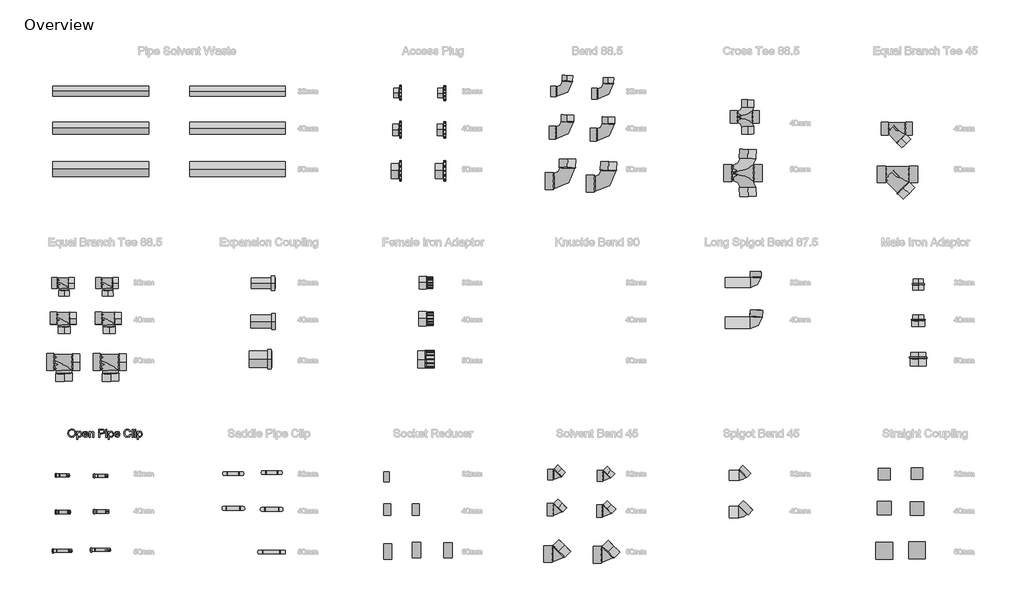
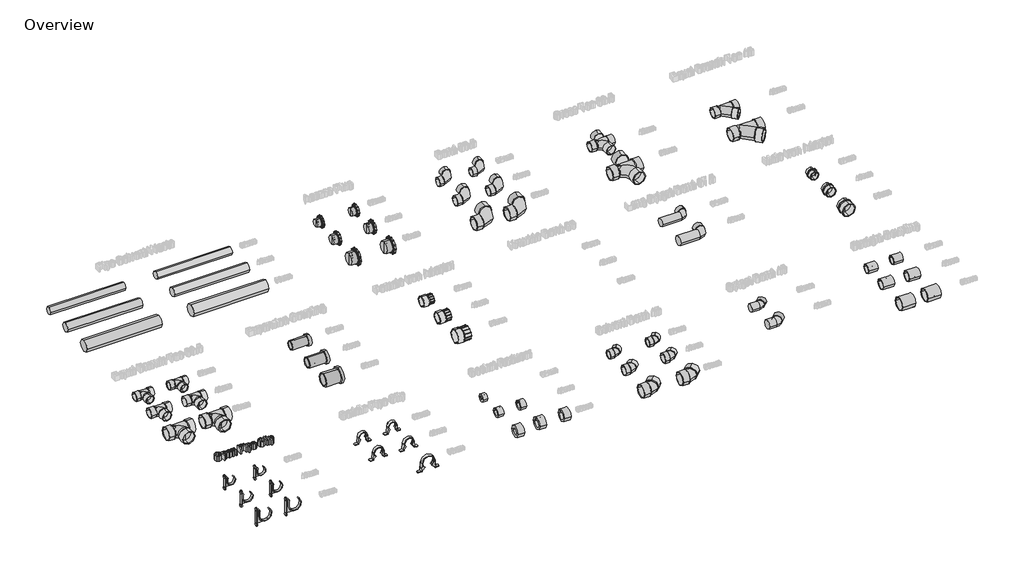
# One storey, part 1 of 10: 70 pipe fittings, 1 proxy.
"""IFC4 building model written with IfcOpenShell, lengths in millimetres."""

from ifc_helpers import new_model, si_unit, point, frame, frame_2d, origin, origin_with_axes, place, context, project, spatial, polyline, circle_curve, trimmed, segment, composite_curve, outline, extrude, transform, mapped, element, save
from components import kap1_32mm_black_3edfe047, kap2_40mm_black_465b1ba6, kap3_50mm_black_8042cce0, kb1_32mm_black_e9972e0a, kb12_32mm_black_8cb6b957, kb2_40mm_black_d1c11dab, kb22_40mm_black_890d581f, kb3_50mm_black_37affa3f, kb32_50mm_black_69a5e7c4, kba12_32mm_white_19b2c38b, kba22_40mm_white_08678ae4, kbs1_32mm_white_f2bac062, kbs2_40mm_white_d1bb09a6, kec1_32mm_white_43a6a038, kec2_40mm_white_910cb4ee, kec3_50mm_white_977d8cc5, kf1_32mm_black_6c7724f6, kf2_40mm_black_470da472, kf3_50mm_black_236c3547, kfa1_32mm_white_d1753785, kfa2_40mm_white_4137147a, kfa3_50mm_white_a62e5cf9, kma1_32mm_white_f1e2a98e, kma2_40mm_white_9f97f819, kma3_50mm_white_1b525f0e, kr175_32_21_5mm_white_198541a2, kr210_40_32mm_black_3720de73, kr310_50_32mm_white_3ceea3f4, kr320_50_40mm_black_520dc552, ksc1_32mm_black_cfbb3ff1, ksc2_40mm_black_a21aa28d, ksc3_50mm_black_f16c5d37, kt1_32mm_black_348191cf, kt2_40mm_black_f508cd0c, kt21_40mm_white_b5f2268c, kt3_50mm_black_4773b306, kt31_50mm_white_7048cb69, kxt21_40mm_white_e69484c4, kxt31_50mm_white_24e1eb4b, wc3_32mm_black_cb145518, wc4_40mm_black_1d234623, wc5_50mm_white_8bb5262e

model = new_model("IFC4")

# Units and contexts
model_context = context("Model", 3, world=origin())
ifc_project = project(units=[si_unit("LENGTHUNIT", "METRE", prefix="MILLI")], contexts=[model_context])

# Site, building, storey
site = spatial("IfcSite", under=ifc_project)
building = spatial("IfcBuilding", under=site)
storey = spatial("IfcBuildingStorey", under=building, Name="Overview", Elevation=0.0)

# Proxy
placement = place(None, origin())
element("IfcBuildingElementProxy", 1, Name="600mm Arial", ObjectType="600mm Arial", at=placement, inside=storey, context=model_context, shape_type="SweptSolid", body=[
    extrude(outline(polyline([(-3139.6077396, 3873.9511231), (-3135.6702396, 3885.4246808), (-3125.5091819, 3889.5713154), (-3118.1606242, 3887.6242), (-3113.1702396, 3882.1939115), (-3111.4538934, 3874.2900654), (-3113.2603838, 3866.2780462), (-3118.3805761, 3860.9270846), (-3125.5308165, 3859.1097769), (-3132.9587011, 3861.1181904), (-3137.9202396, 3866.5989596), (-3139.6077396, 3873.9511231)]), holes=[polyline([(-3135.9154319, 3873.9150654), (-3132.9623069, 3865.7732385), (-3125.5524511, 3862.8020846), (-3118.0776915, 3865.8020846), (-3115.1462011, 3874.3189115), (-3116.4010088, 3880.4126615), (-3120.0680761, 3884.4475173), (-3125.4875472, 3885.8790077), (-3132.8361049, 3883.1205942), (-3135.9154319, 3873.9150654)])]), origin_with_axes(), (0.0, 0.0, 1.0), 25.0),
    extrude(outline(polyline([(-3106.8385088, 3851.2636231), (-3106.8385088, 3881.2636231), (-3103.1462011, 3881.2636231), (-3103.1462011, 3877.6434308), (-3100.5933165, 3880.7047288), (-3097.1462011, 3881.7251615), (-3092.4659126, 3880.2972769), (-3089.4082203, 3876.2732385), (-3088.3769703, 3870.5833346), (-3089.5416338, 3864.6013635), (-3092.9238453, 3860.5268442), (-3097.5933165, 3859.1097769), (-3100.8060569, 3860.0580942), (-3103.1462011, 3862.4559308), (-3103.1462011, 3851.2636231), (-3106.8385088, 3851.2636231)]), holes=[polyline([(-3103.1462011, 3870.2443923), (-3101.5488453, 3864.6193923), (-3097.6726434, 3862.8020846), (-3093.7171146, 3864.6842962), (-3092.069278, 3870.5184308), (-3093.6774511, 3876.1578538), (-3097.5212011, 3878.0328538), (-3101.4406722, 3876.0388635), (-3103.1462011, 3870.2443923)])]), origin_with_axes(), (0.0, 0.0, 1.0), 25.0),
    extrude(outline(polyline([(-3069.0356242, 3866.0328538), (-3065.4154319, 3865.5713154), (-3068.8012492, 3860.8044885), (-3075.1077396, 3859.1097769), (-3082.7736049, 3862.0340558), (-3085.6077396, 3870.2371808), (-3082.7447588, 3878.7107385), (-3075.3168742, 3881.7251615), (-3068.1017299, 3878.71795), (-3065.3000472, 3870.2588154), (-3081.9154319, 3869.2636231), (-3079.7916338, 3864.46795), (-3075.0356242, 3862.8020846), (-3071.4154319, 3863.5737192), (-3069.0356242, 3866.0328538)]), holes=[polyline([(-3081.9154319, 3872.9559308), (-3068.9923549, 3872.9559308), (-3070.4707203, 3876.3020846), (-3075.3312972, 3878.0328538), (-3079.8781722, 3876.6518442), (-3081.9154319, 3872.9559308)])]), origin_with_axes(), (0.0, 0.0, 1.0), 25.0),
    extrude(outline(polyline([(-3061.6077396, 3859.5713154), (-3061.6077396, 3881.2636231), (-3057.9154319, 3881.2636231), (-3057.9154319, 3878.2347769), (-3051.2375472, 3881.7251615), (-3047.7507684, 3881.0220365), (-3045.3709607, 3879.1758827), (-3044.2639896, 3876.4607385), (-3044.069278, 3872.8910269), (-3044.069278, 3859.5713154), (-3047.7615857, 3859.5713154), (-3047.7615857, 3872.3934308), (-3048.1870665, 3875.6602577), (-3049.6906722, 3877.3874212), (-3052.225528, 3878.0328538), (-3056.2315376, 3876.5833346), (-3057.9154319, 3871.0809308), (-3057.9154319, 3859.5713154), (-3061.6077396, 3859.5713154)])), origin_with_axes(), (0.0, 0.0, 1.0), 25.0),
    extrude(outline(polyline([(-3026.9923549, 3859.5713154), (-3026.9923549, 3889.1097769), (-3016.0452396, 3889.1097769), (-3011.631778, 3888.8285269), (-3008.0440376, 3887.4475173), (-3005.7183165, 3884.5917481), (-3004.8385088, 3880.5641038), (-3007.2147107, 3874.1818923), (-3015.7928357, 3871.5713154), (-3023.3000472, 3871.5713154), (-3023.3000472, 3859.5713154), (-3026.9923549, 3859.5713154)]), holes=[polyline([(-3023.3000472, 3875.2636231), (-3015.5764896, 3875.2636231), (-3010.1389896, 3876.6193923), (-3008.5308165, 3880.4342962), (-3009.4791338, 3883.4919885), (-3011.9707203, 3885.1650654), (-3015.663028, 3885.4174692), (-3023.3000472, 3885.4174692), (-3023.3000472, 3875.2636231)])]), origin_with_axes(), (0.0, 0.0, 1.0), 25.0),
    extrude(outline(polyline([(-3000.2231242, 3885.4174692), (-3000.2231242, 3889.1097769), (-2996.5308165, 3889.1097769), (-2996.5308165, 3885.4174692), (-3000.2231242, 3885.4174692)])), origin_with_axes(), (0.0, 0.0, 1.0), 25.0),
    extrude(outline(polyline([(-3000.2231242, 3859.5713154), (-3000.2231242, 3881.2636231), (-2996.5308165, 3881.2636231), (-2996.5308165, 3859.5713154), (-3000.2231242, 3859.5713154)])), origin_with_axes(), (0.0, 0.0, 1.0), 25.0),
    extrude(outline(polyline([(-2990.9923549, 3851.2636231), (-2990.9923549, 3881.2636231), (-2987.3000472, 3881.2636231), (-2987.3000472, 3877.6434308), (-2984.7471626, 3880.7047288), (-2981.3000472, 3881.7251615), (-2976.6197588, 3880.2972769), (-2973.5620665, 3876.2732385), (-2972.5308165, 3870.5833346), (-2973.6954799, 3864.6013635), (-2977.0776915, 3860.5268442), (-2981.7471626, 3859.1097769), (-2984.959903, 3860.0580942), (-2987.3000472, 3862.4559308), (-2987.3000472, 3851.2636231), (-2990.9923549, 3851.2636231)]), holes=[polyline([(-2987.3000472, 3870.2443923), (-2985.7026915, 3864.6193923), (-2981.8264896, 3862.8020846), (-2977.8709607, 3864.6842962), (-2976.2231242, 3870.5184308), (-2977.8312972, 3876.1578538), (-2981.6750472, 3878.0328538), (-2985.5945184, 3876.0388635), (-2987.3000472, 3870.2443923)])]), origin_with_axes(), (0.0, 0.0, 1.0), 25.0),
    extrude(outline(polyline([(-2953.1894703, 3866.0328538), (-2949.569278, 3865.5713154), (-2952.9550953, 3860.8044885), (-2959.2615857, 3859.1097769), (-2966.9274511, 3862.0340558), (-2969.7615857, 3870.2371808), (-2966.8986049, 3878.7107385), (-2959.4707203, 3881.7251615), (-2952.2555761, 3878.71795), (-2949.4538934, 3870.2588154), (-2966.069278, 3869.2636231), (-2963.9454799, 3864.46795), (-2959.1894703, 3862.8020846), (-2955.569278, 3863.5737192), (-2953.1894703, 3866.0328538)]), holes=[polyline([(-2966.069278, 3872.9559308), (-2953.1462011, 3872.9559308), (-2954.6245665, 3876.3020846), (-2959.4851434, 3878.0328538), (-2964.0320184, 3876.6518442), (-2966.069278, 3872.9559308)])]), origin_with_axes(), (0.0, 0.0, 1.0), 25.0),
    extrude(outline(polyline([(-2912.9923549, 3870.0713154), (-2909.3000472, 3869.1193923), (-2913.6774511, 3861.6734788), (-2921.4082203, 3859.1097769), (-2929.0921146, 3861.0496808), (-2933.5993261, 3866.6674692), (-2935.1462011, 3874.5641038), (-2933.397403, 3882.5905462), (-2928.4250472, 3887.7936712), (-2921.3288934, 3889.5713154), (-2913.9334607, 3887.2708346), (-2909.7615857, 3880.7948731), (-2913.4538934, 3879.9150654), (-2916.4827396, 3884.4547288), (-2921.4731242, 3885.8790077), (-2927.2495665, 3884.2996808), (-2930.5127876, 3880.0592962), (-2931.4538934, 3874.5713154), (-2930.3397107, 3868.2107385), (-2926.8709607, 3864.1470365), (-2921.7760088, 3862.8020846), (-2916.1257684, 3864.6338154), (-2912.9923549, 3870.0713154)])), origin_with_axes(), (0.0, 0.0, 1.0), 25.0),
    extrude(outline(polyline([(-2904.6846626, 3859.5713154), (-2904.6846626, 3889.1097769), (-2900.9923549, 3889.1097769), (-2900.9923549, 3859.5713154), (-2904.6846626, 3859.5713154)])), origin_with_axes(), (0.0, 0.0, 1.0), 25.0),
    extrude(outline(polyline([(-2895.4538934, 3859.5713154), (-2895.4538934, 3881.2636231), (-2891.7615857, 3881.2636231), (-2891.7615857, 3859.5713154), (-2895.4538934, 3859.5713154)])), origin_with_axes(), (0.0, 0.0, 1.0), 25.0),
    extrude(outline(polyline([(-2895.4538934, 3885.4174692), (-2895.4538934, 3889.1097769), (-2891.7615857, 3889.1097769), (-2891.7615857, 3885.4174692), (-2895.4538934, 3885.4174692)])), origin_with_axes(), (0.0, 0.0, 1.0), 25.0),
    extrude(outline(polyline([(-2886.2231242, 3851.2636231), (-2886.2231242, 3881.2636231), (-2882.5308165, 3881.2636231), (-2882.5308165, 3877.6434308), (-2879.9779319, 3880.7047288), (-2876.5308165, 3881.7251615), (-2871.850528, 3880.2972769), (-2868.7928357, 3876.2732385), (-2867.7615857, 3870.5833346), (-2868.9262492, 3864.6013635), (-2872.3084607, 3860.5268442), (-2876.9779319, 3859.1097769), (-2880.1906722, 3860.0580942), (-2882.5308165, 3862.4559308), (-2882.5308165, 3851.2636231), (-2886.2231242, 3851.2636231)]), holes=[polyline([(-2882.5308165, 3870.2443923), (-2880.9334607, 3864.6193923), (-2877.0572588, 3862.8020846), (-2873.1017299, 3864.6842962), (-2871.4538934, 3870.5184308), (-2873.0620665, 3876.1578538), (-2876.9058165, 3878.0328538), (-2880.8252876, 3876.0388635), (-2882.5308165, 3870.2443923)])]), origin_with_axes(), (0.0, 0.0, 1.0), 25.0),
])

# Pipe fittings
element("IfcPipeFitting", 2, ObjectType="Marley - PVC-c solvent waste - Black", at=placement, inside=storey, context=model_context, shape_type="SweptSolid", body=[
    extrude(outline(composite_curve([segment(trimmed(circle_curve(frame_2d((5126.2344761, 0.0)), 18.0), [point((5108.2344761, 0.0))], [point((5126.2344761, 18.0))], False, "CARTESIAN"), True, "CONTINUOUS"), segment(trimmed(circle_curve(frame_2d((5126.2344761, 0.0)), 18.0), [point((5126.2344761, 18.0))], [point((5144.2344761, 0.0))], False, "CARTESIAN"), True, "CONTINUOUS"), segment(trimmed(circle_curve(frame_2d((5126.2344761, 0.0)), 18.0), [point((5144.2344761, 0.0))], [point((5126.2344761, -18.0))], False, "CARTESIAN"), True, "CONTINUOUS"), segment(trimmed(circle_curve(frame_2d((5126.2344761, 0.0)), 18.0), [point((5126.2344761, -18.0))], [point((5108.2344761, 0.0))], False, "CARTESIAN"), True, "CONTINUOUS")], self_intersect=False)), frame((-3194.3273659, 0.0, 0.0), z_axis=(1.0, 0.0, 0.0), x_axis=(0.0, 1.0, 0.0)), (0.0, 0.0, 1.0), 350.0),
])
element("IfcPipeFitting", 3, ObjectType="Marley - PVC-c solvent waste - White", at=placement, inside=storey, context=model_context, shape_type="SweptSolid", body=[
    extrude(outline(composite_curve([segment(trimmed(circle_curve(frame_2d((5126.2344761, 0.0)), 18.0), [point((5144.2344761, 0.0))], [point((5126.2344761, -18.0))], False, "CARTESIAN"), True, "CONTINUOUS"), segment(trimmed(circle_curve(frame_2d((5126.2344761, 0.0)), 18.0), [point((5126.2344761, -18.0))], [point((5108.2344761, 0.0))], False, "CARTESIAN"), True, "CONTINUOUS"), segment(trimmed(circle_curve(frame_2d((5126.2344761, 0.0)), 18.0), [point((5108.2344761, 0.0))], [point((5126.2344761, 18.0))], False, "CARTESIAN"), True, "CONTINUOUS"), segment(trimmed(circle_curve(frame_2d((5126.2344761, 0.0)), 18.0), [point((5126.2344761, 18.0))], [point((5144.2344761, 0.0))], False, "CARTESIAN"), True, "CONTINUOUS")], self_intersect=False)), frame((-2694.3273659, 0.0, 0.0), z_axis=(1.0, 0.0, 0.0), x_axis=(0.0, 1.0, 0.0)), (0.0, 0.0, 1.0), 350.0),
])
element("IfcPipeFitting", 4, ObjectType="Marley - PVC-c solvent waste - Black", at=placement, inside=storey, context=model_context, shape_type="SweptSolid", body=[
    extrude(outline(composite_curve([segment(trimmed(circle_curve(frame_2d((4990.5685355, 0.0)), 21.5), [point((4969.0685355, 0.0))], [point((4990.5685355, 21.5))], False, "CARTESIAN"), True, "CONTINUOUS"), segment(trimmed(circle_curve(frame_2d((4990.5685355, 0.0)), 21.5), [point((4990.5685355, 21.5))], [point((5012.0685355, 0.0))], False, "CARTESIAN"), True, "CONTINUOUS"), segment(trimmed(circle_curve(frame_2d((4990.5685355, 0.0)), 21.5), [point((5012.0685355, 0.0))], [point((4990.5685355, -21.5))], False, "CARTESIAN"), True, "CONTINUOUS"), segment(trimmed(circle_curve(frame_2d((4990.5685355, 0.0)), 21.5), [point((4990.5685355, -21.5))], [point((4969.0685355, 0.0))], False, "CARTESIAN"), True, "CONTINUOUS")], self_intersect=False)), frame((-3194.3273659, 0.0, 0.0), z_axis=(1.0, 0.0, 0.0), x_axis=(0.0, 1.0, 0.0)), (0.0, 0.0, 1.0), 350.0),
])
element("IfcPipeFitting", 5, ObjectType="Marley - PVC-c solvent waste - White", at=placement, inside=storey, context=model_context, shape_type="SweptSolid", body=[
    extrude(outline(composite_curve([segment(trimmed(circle_curve(frame_2d((4990.5685355, 0.0)), 21.5), [point((5012.0685355, 0.0))], [point((4990.5685355, -21.5))], False, "CARTESIAN"), True, "CONTINUOUS"), segment(trimmed(circle_curve(frame_2d((4990.5685355, 0.0)), 21.5), [point((4990.5685355, -21.5))], [point((4969.0685355, 0.0))], False, "CARTESIAN"), True, "CONTINUOUS"), segment(trimmed(circle_curve(frame_2d((4990.5685355, 0.0)), 21.5), [point((4969.0685355, 0.0))], [point((4990.5685355, 21.5))], False, "CARTESIAN"), True, "CONTINUOUS"), segment(trimmed(circle_curve(frame_2d((4990.5685355, 0.0)), 21.5), [point((4990.5685355, 21.5))], [point((5012.0685355, 0.0))], False, "CARTESIAN"), True, "CONTINUOUS")], self_intersect=False)), frame((-2694.3273659, 0.0, 0.0), z_axis=(1.0, 0.0, 0.0), x_axis=(0.0, 1.0, 0.0)), (0.0, 0.0, 1.0), 350.0),
])
element("IfcPipeFitting", 6, ObjectType="Marley - PVC-c solvent waste - Black", at=placement, inside=storey, context=model_context, shape_type="SweptSolid", body=[
    extrude(outline(composite_curve([segment(trimmed(circle_curve(frame_2d((4840.9138269, 0.0)), 28.0), [point((4812.9138269, 0.0))], [point((4840.9138269, 28.0))], False, "CARTESIAN"), True, "CONTINUOUS"), segment(trimmed(circle_curve(frame_2d((4840.9138269, 0.0)), 28.0), [point((4840.9138269, 28.0))], [point((4868.9138269, 0.0))], False, "CARTESIAN"), True, "CONTINUOUS"), segment(trimmed(circle_curve(frame_2d((4840.9138269, 0.0)), 28.0), [point((4868.9138269, 0.0))], [point((4840.9138269, -28.0))], False, "CARTESIAN"), True, "CONTINUOUS"), segment(trimmed(circle_curve(frame_2d((4840.9138269, 0.0)), 28.0), [point((4840.9138269, -28.0))], [point((4812.9138269, 0.0))], False, "CARTESIAN"), True, "CONTINUOUS")], self_intersect=False)), frame((-3194.3273659, 0.0, 0.0), z_axis=(1.0, 0.0, 0.0), x_axis=(0.0, 1.0, 0.0)), (0.0, 0.0, 1.0), 350.0),
])
element("IfcPipeFitting", 7, ObjectType="Marley - PVC-c solvent waste - White", at=placement, inside=storey, context=model_context, shape_type="SweptSolid", body=[
    extrude(outline(composite_curve([segment(trimmed(circle_curve(frame_2d((4840.9138269, 0.0)), 28.0), [point((4868.9138269, 0.0))], [point((4840.9138269, -28.0))], False, "CARTESIAN"), True, "CONTINUOUS"), segment(trimmed(circle_curve(frame_2d((4840.9138269, 0.0)), 28.0), [point((4840.9138269, -28.0))], [point((4812.9138269, 0.0))], False, "CARTESIAN"), True, "CONTINUOUS"), segment(trimmed(circle_curve(frame_2d((4840.9138269, 0.0)), 28.0), [point((4812.9138269, 0.0))], [point((4840.9138269, 28.0))], False, "CARTESIAN"), True, "CONTINUOUS"), segment(trimmed(circle_curve(frame_2d((4840.9138269, 0.0)), 28.0), [point((4840.9138269, 28.0))], [point((4868.9138269, 0.0))], False, "CARTESIAN"), True, "CONTINUOUS")], self_intersect=False)), frame((-2694.3273659, 0.0, 0.0), z_axis=(1.0, 0.0, 0.0), x_axis=(0.0, 1.0, 0.0)), (0.0, 0.0, 1.0), 350.0),
])
kap1_32mm_black_shape = kap1_32mm_black_3edfe047(model_context)
element("IfcPipeFitting", 8, ObjectType="MarleyPlumbingAndDrainage_PipeFitting_AccessPlug : KAP1 - 32mm - Black", at=placement, inside=storey, context=model_context, shape_type="MappedRepresentation", body=[
    mapped(kap1_32mm_black_shape, transform((-1595.8917114, 5120.6296516, 0.0), x_axis=(1.0, 0.0, 0.0), y_axis=(0.0, 1.0, 0.0), z_axis=(0.0, 0.0, 1.0))),
])
element("IfcPipeFitting", 9, ObjectType="MarleyPlumbingAndDrainage_PipeFitting_AccessPlug : KAP1 - 32mm - White", at=placement, inside=storey, context=model_context, shape_type="MappedRepresentation", body=[
    mapped(kap1_32mm_black_shape, transform((-1433.6415484, 5119.5713154, 0.0), x_axis=(1.0, 0.0, 0.0), y_axis=(0.0, 1.0, 0.0), z_axis=(0.0, 0.0, 1.0))),
])
kap2_40mm_black_shape = kap2_40mm_black_465b1ba6(model_context)
element("IfcPipeFitting", 10, ObjectType="MarleyPlumbingAndDrainage_PipeFitting_AccessPlug : KAP2 - 40mm - Black", at=placement, inside=storey, context=model_context, shape_type="MappedRepresentation", body=[
    mapped(kap2_40mm_black_shape, transform((-1595.8917114, 4985.6296516, 0.0), x_axis=(1.0, 0.0, 0.0), y_axis=(0.0, 1.0, 0.0), z_axis=(0.0, 0.0, 1.0))),
])
element("IfcPipeFitting", 11, ObjectType="MarleyPlumbingAndDrainage_PipeFitting_AccessPlug : KAP2 - 40mm - White", at=placement, inside=storey, context=model_context, shape_type="MappedRepresentation", body=[
    mapped(kap2_40mm_black_shape, transform((-1433.6415484, 4984.5713154, 0.0), x_axis=(1.0, 0.0, 0.0), y_axis=(0.0, 1.0, 0.0), z_axis=(0.0, 0.0, 1.0))),
])
kap3_50mm_black_shape = kap3_50mm_black_8042cce0(model_context)
element("IfcPipeFitting", 12, ObjectType="MarleyPlumbingAndDrainage_PipeFitting_AccessPlug : KAP3 - 50mm - Black", at=placement, inside=storey, context=model_context, shape_type="MappedRepresentation", body=[
    mapped(kap3_50mm_black_shape, transform((-1595.8917114, 4834.5713154, 0.0), x_axis=(1.0, 0.0, 0.0), y_axis=(0.0, 1.0, 0.0), z_axis=(0.0, 0.0, 1.0))),
])
element("IfcPipeFitting", 13, ObjectType="MarleyPlumbingAndDrainage_PipeFitting_AccessPlug : KAP3 - 50mm - White", at=placement, inside=storey, context=model_context, shape_type="MappedRepresentation", body=[
    mapped(kap3_50mm_black_shape, transform((-1433.6415484, 4834.5713154, 0.0), x_axis=(1.0, 0.0, 0.0), y_axis=(0.0, 1.0, 0.0), z_axis=(0.0, 0.0, 1.0))),
])
kb1_32mm_black_shape = kb1_32mm_black_e9972e0a(model_context)
element("IfcPipeFitting", 14, ObjectType="MarleyPlumbingAndDrainage_PipeFitting_Bend88.5 : KB1 - 32mm - Black", at=placement, inside=storey, context=model_context, shape_type="MappedRepresentation", body=[
    mapped(kb1_32mm_black_shape, transform((-1299.5605779, 5125.0949754, 0.0), x_axis=(1.0, 0.0, 0.0), y_axis=(0.0, 1.0, 0.0), z_axis=(0.0, 0.0, 1.0))),
])
element("IfcPipeFitting", 15, ObjectType="MarleyPlumbingAndDrainage_PipeFitting_Bend88.5 : KB1 - 32mm - White", at=placement, inside=storey, context=model_context, shape_type="MappedRepresentation", body=[
    mapped(kb1_32mm_black_shape, transform((-1149.5605779, 5117.04699, 0.0), x_axis=(1.0, 0.0, 0.0), y_axis=(0.0, 1.0, 0.0), z_axis=(0.0, 0.0, 1.0))),
])
kb12_32mm_black_shape = kb12_32mm_black_8cb6b957(model_context)
element("IfcPipeFitting", 16, ObjectType="MarleyPlumbingAndDrainage_PipeFitting_SolventBend45 : KB12 - 32mm - Black", at=placement, inside=storey, context=model_context, shape_type="MappedRepresentation", body=[
    mapped(kb12_32mm_black_shape, transform((-1339.5605779, 3722.7151872, 0.0), x_axis=(1.0, 0.0, 0.0), y_axis=(0.0, 1.0, 0.0), z_axis=(0.0, 0.0, 1.0))),
])
element("IfcPipeFitting", 17, ObjectType="MarleyPlumbingAndDrainage_PipeFitting_SolventBend45 : KB12 - 32mm - White", at=placement, inside=storey, context=model_context, shape_type="MappedRepresentation", body=[
    mapped(kb12_32mm_black_shape, transform((-1159.5605779, 3717.791393, 0.0), x_axis=(1.0, 0.0, 0.0), y_axis=(0.0, 1.0, 0.0), z_axis=(0.0, 0.0, 1.0))),
])
kb2_40mm_black_shape = kb2_40mm_black_d1c11dab(model_context)
element("IfcPipeFitting", 18, ObjectType="MarleyPlumbingAndDrainage_PipeFitting_Bend88.5 : KB2 - 40mm - Black", at=placement, inside=storey, context=model_context, shape_type="MappedRepresentation", body=[
    mapped(kb2_40mm_black_shape, transform((-1299.5605779, 4974.3934441, 0.0), x_axis=(1.0, 0.0, 0.0), y_axis=(0.0, 1.0, 0.0), z_axis=(0.0, 0.0, 1.0))),
])
element("IfcPipeFitting", 19, ObjectType="MarleyPlumbingAndDrainage_PipeFitting_Bend88.5 : KB2 - 40mm - White", at=placement, inside=storey, context=model_context, shape_type="MappedRepresentation", body=[
    mapped(kb2_40mm_black_shape, transform((-1149.5605779, 4967.0494563, 0.0), x_axis=(1.0, 0.0, 0.0), y_axis=(0.0, 1.0, 0.0), z_axis=(0.0, 0.0, 1.0))),
])
kb22_40mm_black_shape = kb22_40mm_black_890d581f(model_context)
element("IfcPipeFitting", 20, ObjectType="MarleyPlumbingAndDrainage_PipeFitting_SolventBend45 : KB22 - 40mm - Black", at=placement, inside=storey, context=model_context, shape_type="MappedRepresentation", body=[
    mapped(kb22_40mm_black_shape, transform((-1339.5605779, 3594.5822287, 0.0), x_axis=(1.0, 0.0, 0.0), y_axis=(0.0, 1.0, 0.0), z_axis=(0.0, 0.0, 1.0))),
])
element("IfcPipeFitting", 21, ObjectType="MarleyPlumbingAndDrainage_PipeFitting_SolventBend45 : KB22 - 40mm - White", at=placement, inside=storey, context=model_context, shape_type="MappedRepresentation", body=[
    mapped(kb22_40mm_black_shape, transform((-1159.5605779, 3589.5441258, 0.0), x_axis=(1.0, 0.0, 0.0), y_axis=(0.0, 1.0, 0.0), z_axis=(0.0, 0.0, 1.0))),
])
kb3_50mm_black_shape = kb3_50mm_black_37affa3f(model_context)
element("IfcPipeFitting", 22, ObjectType="MarleyPlumbingAndDrainage_PipeFitting_Bend88.5 : KB3 - 50mm - Black", at=placement, inside=storey, context=model_context, shape_type="MappedRepresentation", body=[
    mapped(kb3_50mm_black_shape, transform((-1299.5605779, 4797.6176959, 0.0), x_axis=(1.0, 0.0, 0.0), y_axis=(0.0, 1.0, 0.0), z_axis=(0.0, 0.0, 1.0))),
])
element("IfcPipeFitting", 23, ObjectType="MarleyPlumbingAndDrainage_PipeFitting_Bend88.5 : KB3 - 50mm - White", at=placement, inside=storey, context=model_context, shape_type="MappedRepresentation", body=[
    mapped(kb3_50mm_black_shape, transform((-1149.5605779, 4787.8257121, 0.0), x_axis=(1.0, 0.0, 0.0), y_axis=(0.0, 1.0, 0.0), z_axis=(0.0, 0.0, 1.0))),
])
kb32_50mm_black_shape = kb32_50mm_black_69a5e7c4(model_context)
element("IfcPipeFitting", 24, ObjectType="MarleyPlumbingAndDrainage_PipeFitting_SolventBend45 : KB32 - 50mm - Black", at=placement, inside=storey, context=model_context, shape_type="MappedRepresentation", body=[
    mapped(kb32_50mm_black_shape, transform((-1339.5605779, 3432.0208134, 0.0), x_axis=(1.0, 0.0, 0.0), y_axis=(0.0, 1.0, 0.0), z_axis=(0.0, 0.0, 1.0))),
])
element("IfcPipeFitting", 25, ObjectType="MarleyPlumbingAndDrainage_PipeFitting_SolventBend45 : KB32 - 50mm - White", at=placement, inside=storey, context=model_context, shape_type="MappedRepresentation", body=[
    mapped(kb32_50mm_black_shape, transform((-1159.5605779, 3429.5589163, 0.0), x_axis=(1.0, 0.0, 0.0), y_axis=(0.0, 1.0, 0.0), z_axis=(0.0, 0.0, 1.0))),
])
kba12_32mm_white_shape = kba12_32mm_white_19b2c38b(model_context)
element("IfcPipeFitting", 26, ObjectType="MarleyPlumbingAndDrainage_PipeFitting_SpigotBend45 : KBA12 - 32mm - White", at=placement, inside=storey, context=model_context, shape_type="MappedRepresentation", body=[
    mapped(kba12_32mm_white_shape, transform((-687.7655733, 3710.1013723, 0.0), x_axis=(-0.7071067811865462, -0.7071067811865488, 0.0), y_axis=(0.7071067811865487, -0.7071067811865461, 0.0), z_axis=(0.0, 0.0, 0.9999999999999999))),
])
kba22_40mm_white_shape = kba22_40mm_white_08678ae4(model_context)
element("IfcPipeFitting", 27, ObjectType="MarleyPlumbingAndDrainage_PipeFitting_SpigotBend45 : KBA22 - 40mm - White", at=placement, inside=storey, context=model_context, shape_type="MappedRepresentation", body=[
    mapped(kba22_40mm_white_shape, transform((-686.8613177, 3575.3996996, 0.0), x_axis=(-0.7071067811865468, -0.7071067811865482, 0.0), y_axis=(0.7071067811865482, -0.7071067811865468, 0.0), z_axis=(0.0, 0.0, 1.0))),
])
kbs1_32mm_white_shape = kbs1_32mm_white_f2bac062(model_context)
element("IfcPipeFitting", 28, ObjectType="MarleyPlumbingAndDrainage_PipeFitting_LongSpigotBend87.5 : KBS1 - 32mm - White", at=placement, inside=storey, context=model_context, shape_type="MappedRepresentation", body=[
    mapped(kbs1_32mm_white_shape, transform((-625.9209273, 4411.6752386, 0.0), x_axis=(-0.04361938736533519, -0.999048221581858, 0.0), y_axis=(0.999048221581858, -0.04361938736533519, 0.0), z_axis=(0.0, 0.0, 1.0))),
])
kbs2_40mm_white_shape = kbs2_40mm_white_d1bb09a6(model_context)
element("IfcPipeFitting", 29, ObjectType="MarleyPlumbingAndDrainage_PipeFitting_LongSpigotBend87.5 : KBS2 - 40mm - White", at=placement, inside=storey, context=model_context, shape_type="MappedRepresentation", body=[
    mapped(kbs2_40mm_white_shape, transform((-623.9867335, 4263.9548834, 0.0), x_axis=(-0.04361938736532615, -0.9990482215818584, 0.0), y_axis=(0.9990482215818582, -0.04361938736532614, 0.0), z_axis=(0.0, 0.0, 0.9999999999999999))),
])
kec1_32mm_white_shape = kec1_32mm_white_43a6a038(model_context)
element("IfcPipeFitting", 30, ObjectType="MarleyPlumbingAndDrainage_PipeFitting_ExpansionCoupling : KEC1 - 32mm - White", at=placement, inside=storey, context=model_context, shape_type="MappedRepresentation", body=[
    mapped(kec1_32mm_white_shape, transform((-2429.5019841, 4423.5468285, 0.0), x_axis=(1.0, 0.0, 0.0), y_axis=(0.0, 1.0, 0.0), z_axis=(0.0, 0.0, 1.0))),
])
kec2_40mm_white_shape = kec2_40mm_white_910cb4ee(model_context)
element("IfcPipeFitting", 31, ObjectType="MarleyPlumbingAndDrainage_PipeFitting_ExpansionCoupling : KEC2 - 40mm - White", at=placement, inside=storey, context=model_context, shape_type="MappedRepresentation", body=[
    mapped(kec2_40mm_white_shape, transform((-2429.5019841, 4283.9307351, 0.0), x_axis=(1.0, 0.0, 0.0), y_axis=(0.0, 1.0, 0.0), z_axis=(0.0, 0.0, 1.0))),
])
kec3_50mm_white_shape = kec3_50mm_white_977d8cc5(model_context)
element("IfcPipeFitting", 32, ObjectType="MarleyPlumbingAndDrainage_PipeFitting_ExpansionCoupling : KEC3 - 50mm - White", at=placement, inside=storey, context=model_context, shape_type="MappedRepresentation", body=[
    mapped(kec3_50mm_white_shape, transform((-2429.5019841, 4146.1761896, 0.0), x_axis=(1.0, 0.0, 0.0), y_axis=(0.0, 1.0, 0.0), z_axis=(0.0, 0.0, 1.0))),
])
kf1_32mm_black_shape = kf1_32mm_black_6c7724f6(model_context)
element("IfcPipeFitting", 33, ObjectType="MarleyPlumbingAndDrainage_PipeFitting_OpenPipeClip : KF1 - 32mm - Black", at=placement, inside=storey, context=model_context, shape_type="MappedRepresentation", body=[
    mapped(kf1_32mm_black_shape, transform((-3137.0424596, 3719.8640928, 0.0), x_axis=(1.0, 0.0, 0.0), y_axis=(0.0, 1.0, 0.0), z_axis=(0.0, 0.0, 1.0))),
])
element("IfcPipeFitting", 34, ObjectType="MarleyPlumbingAndDrainage_PipeFitting_OpenPipeClip : KF1 - 32mm - White", at=placement, inside=storey, context=model_context, shape_type="MappedRepresentation", body=[
    mapped(kf1_32mm_black_shape, transform((-2997.0424596, 3718.0025449, 0.0), x_axis=(1.0, 0.0, 0.0), y_axis=(0.0, 1.0, 0.0), z_axis=(0.0, 0.0, 1.0))),
])
kf2_40mm_black_shape = kf2_40mm_black_470da472(model_context)
element("IfcPipeFitting", 35, ObjectType="MarleyPlumbingAndDrainage_PipeFitting_OpenPipeClip : KF2 - 40mm - Black", at=placement, inside=storey, context=model_context, shape_type="MappedRepresentation", body=[
    mapped(kf2_40mm_black_shape, transform((-3137.0424596, 3585.7250264, 0.0), x_axis=(1.0, 0.0, 0.0), y_axis=(0.0, 1.0, 0.0), z_axis=(0.0, 0.0, 1.0))),
])
element("IfcPipeFitting", 36, ObjectType="MarleyPlumbingAndDrainage_PipeFitting_OpenPipeClip : KF2 - 40mm - White", at=placement, inside=storey, context=model_context, shape_type="MappedRepresentation", body=[
    mapped(kf2_40mm_black_shape, transform((-2997.0424596, 3587.5865743, 0.0), x_axis=(1.0, 0.0, 0.0), y_axis=(0.0, 1.0, 0.0), z_axis=(0.0, 0.0, 1.0))),
])
kf3_50mm_black_shape = kf3_50mm_black_236c3547(model_context)
element("IfcPipeFitting", 37, ObjectType="MarleyPlumbingAndDrainage_PipeFitting_OpenPipeClip : KF3 - 50mm - Black", at=placement, inside=storey, context=model_context, shape_type="MappedRepresentation", body=[
    mapped(kf3_50mm_black_shape, transform((-3137.0424596, 3443.5551247, 0.0), x_axis=(1.0, 0.0, 0.0), y_axis=(0.0, 1.0, 0.0), z_axis=(0.0, 0.0, 1.0))),
])
element("IfcPipeFitting", 38, ObjectType="MarleyPlumbingAndDrainage_PipeFitting_OpenPipeClip : KF3 - 50mm - White", at=placement, inside=storey, context=model_context, shape_type="MappedRepresentation", body=[
    mapped(kf3_50mm_black_shape, transform((-2997.0424596, 3447.2782205, 0.0), x_axis=(1.0, 0.0, 0.0), y_axis=(0.0, 1.0, 0.0), z_axis=(0.0, 0.0, 1.0))),
])
kfa1_32mm_white_shape = kfa1_32mm_white_d1753785(model_context)
element("IfcPipeFitting", 39, ObjectType="MarleyPlumbingAndDrainage_PipeFitting_FemaleIronAdaptor : KFA1 - 32mm - White", at=placement, inside=storey, context=model_context, shape_type="MappedRepresentation", body=[
    mapped(kfa1_32mm_white_shape, transform((-1829.3273659, 4440.0407992, 0.0), x_axis=(0.0, 1.0, 0.0), y_axis=(-1.0, 0.0, 0.0), z_axis=(0.0, 0.0, 1.0))),
])
kfa2_40mm_white_shape = kfa2_40mm_white_4137147a(model_context)
element("IfcPipeFitting", 40, ObjectType="MarleyPlumbingAndDrainage_PipeFitting_FemaleIronAdaptor : KFA2 - 40mm - White", at=placement, inside=storey, context=model_context, shape_type="MappedRepresentation", body=[
    mapped(kfa2_40mm_white_shape, transform((-1829.8273659, 4308.4230768, 0.0), x_axis=(0.0, 1.0, 0.0), y_axis=(-1.0, 0.0, 0.0), z_axis=(0.0, 0.0, 1.0))),
])
kfa3_50mm_white_shape = kfa3_50mm_white_a62e5cf9(model_context)
element("IfcPipeFitting", 41, ObjectType="MarleyPlumbingAndDrainage_PipeFitting_FemaleIronAdaptor : KFA3 - 50mm - White", at=placement, inside=storey, context=model_context, shape_type="MappedRepresentation", body=[
    mapped(kfa3_50mm_white_shape, transform((-1834.3273659, 4159.8554557, 0.0), x_axis=(0.0, 1.0000000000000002, 0.0), y_axis=(-1.0000000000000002, 0.0, 0.0), z_axis=(0.0, 0.0, 1.0))),
])
kma1_32mm_white_shape = kma1_32mm_white_f1e2a98e(model_context)
element("IfcPipeFitting", 42, ObjectType="MarleyPlumbingAndDrainage_PipeFitting_MaleIronAdaptor : KMA1 - 32mm - White", at=placement, inside=storey, context=model_context, shape_type="MappedRepresentation", body=[
    mapped(kma1_32mm_white_shape, transform((-14.5019841, 4421.7256407, 0.0), x_axis=(1.0, 0.0, 0.0), y_axis=(0.0, 1.0, 0.0), z_axis=(0.0, 0.0, 1.0))),
])
kma2_40mm_white_shape = kma2_40mm_white_9f97f819(model_context)
element("IfcPipeFitting", 43, ObjectType="MarleyPlumbingAndDrainage_PipeFitting_MaleIronAdaptor : KMA2 - 40mm - White", at=placement, inside=storey, context=model_context, shape_type="MappedRepresentation", body=[
    mapped(kma2_40mm_white_shape, transform((-14.5019841, 4290.6174097, 0.0), x_axis=(1.0, 0.0, 0.0), y_axis=(0.0, 1.0, 0.0), z_axis=(0.0, 0.0, 1.0))),
])
kma3_50mm_white_shape = kma3_50mm_white_1b525f0e(model_context)
element("IfcPipeFitting", 44, ObjectType="MarleyPlumbingAndDrainage_PipeFitting_MaleIronAdaptor : KMA3 - 50mm - White", at=placement, inside=storey, context=model_context, shape_type="MappedRepresentation", body=[
    mapped(kma3_50mm_white_shape, transform((-14.5019841, 4152.7552475, 0.0), x_axis=(1.0, 0.0, 0.0), y_axis=(0.0, 1.0, 0.0), z_axis=(0.0, 0.0, 1.0))),
])
kr175_32_21_5mm_white_shape = kr175_32_21_5mm_white_198541a2(model_context)
element("IfcPipeFitting", 45, ObjectType="MarleyPlumbingAndDrainage_PipeFitting_SocketReducer : KR175 - 32-21.5mm - White", at=placement, inside=storey, context=model_context, shape_type="MappedRepresentation", body=[
    mapped(kr175_32_21_5mm_white_shape, transform((-1967.0019841, 3714.4779785, 0.0), x_axis=(1.0, 0.0, 0.0), y_axis=(0.0, 1.0, 0.0), z_axis=(0.0, 0.0, 1.0))),
])
kr210_40_32mm_black_shape = kr210_40_32mm_black_3720de73(model_context)
element("IfcPipeFitting", 46, ObjectType="MarleyPlumbingAndDrainage_PipeFitting_SocketReducer : KR210 - 40-32mm - Black", at=placement, inside=storey, context=model_context, shape_type="MappedRepresentation", body=[
    mapped(kr210_40_32mm_black_shape, transform((-1967.0019841, 3594.8537396, 0.0), x_axis=(1.0, 0.0, 0.0), y_axis=(0.0, 1.0, 0.0), z_axis=(0.0, 0.0, 1.0))),
])
element("IfcPipeFitting", 47, ObjectType="MarleyPlumbingAndDrainage_PipeFitting_SocketReducer : KR210 - 40-32mm - White", at=placement, inside=storey, context=model_context, shape_type="MappedRepresentation", body=[
    mapped(kr210_40_32mm_black_shape, transform((-1862.0019841, 3594.8537396, 0.0), x_axis=(1.0, 0.0, 0.0), y_axis=(0.0, 1.0, 0.0), z_axis=(0.0, 0.0, 1.0))),
])
kr310_50_32mm_white_shape = kr310_50_32mm_white_3ceea3f4(model_context)
element("IfcPipeFitting", 48, ObjectType="MarleyPlumbingAndDrainage_PipeFitting_SocketReducer : KR310 - 50-32mm - White", at=placement, inside=storey, context=model_context, shape_type="MappedRepresentation", body=[
    mapped(kr310_50_32mm_white_shape, transform((-1967.0019841, 3441.4471568, 0.0), x_axis=(1.0, 0.0, 0.0), y_axis=(0.0, 1.0, 0.0), z_axis=(0.0, 0.0, 1.0))),
])
kr320_50_40mm_black_shape = kr320_50_40mm_black_520dc552(model_context)
element("IfcPipeFitting", 49, ObjectType="MarleyPlumbingAndDrainage_PipeFitting_SocketReducer : KR320 - 50-40mm - Black", at=placement, inside=storey, context=model_context, shape_type="MappedRepresentation", body=[
    mapped(kr320_50_40mm_black_shape, transform((-1862.0019841, 3447.0775475, 0.0), x_axis=(1.0, 0.0, 0.0), y_axis=(0.0, 1.0, 0.0), z_axis=(0.0, 0.0, 1.0))),
])
element("IfcPipeFitting", 50, ObjectType="MarleyPlumbingAndDrainage_PipeFitting_SocketReducer : KR320 - 50-40mm - White", at=placement, inside=storey, context=model_context, shape_type="MappedRepresentation", body=[
    mapped(kr320_50_40mm_black_shape, transform((-1747.0019841, 3445.6699498, 0.0), x_axis=(1.0, 0.0, 0.0), y_axis=(0.0, 1.0, 0.0), z_axis=(0.0, 0.0, 1.0))),
])
ksc1_32mm_black_shape = ksc1_32mm_black_cfbb3ff1(model_context)
element("IfcPipeFitting", 51, ObjectType="MarleyPlumbingAndDrainage_PipeFitting_StraightCoupling : KSC1 - 32mm - Black", at=placement, inside=storey, context=model_context, shape_type="MappedRepresentation", body=[
    mapped(ksc1_32mm_black_shape, transform((-139.5019841, 3724.8588001, 0.0), x_axis=(1.0, 0.0, 0.0), y_axis=(0.0, 1.0, 0.0), z_axis=(0.0, 0.0, 1.0))),
])
element("IfcPipeFitting", 52, ObjectType="MarleyPlumbingAndDrainage_PipeFitting_StraightCoupling : KSC1 - 32mm - White", at=placement, inside=storey, context=model_context, shape_type="MappedRepresentation", body=[
    mapped(ksc1_32mm_black_shape, transform((-19.5019841, 3726.720348, 0.0), x_axis=(1.0, 0.0, 0.0), y_axis=(0.0, 1.0, 0.0), z_axis=(0.0, 0.0, 1.0))),
])
ksc2_40mm_black_shape = ksc2_40mm_black_a21aa28d(model_context)
element("IfcPipeFitting", 53, ObjectType="MarleyPlumbingAndDrainage_PipeFitting_StraightCoupling : KSC2 - 40mm - Black", at=placement, inside=storey, context=model_context, shape_type="MappedRepresentation", body=[
    mapped(ksc2_40mm_black_shape, transform((-139.5019841, 3600.13509, 0.0), x_axis=(1.0, 0.0, 0.0), y_axis=(0.0, 1.0, 0.0), z_axis=(0.0, 0.0, 1.0))),
])
element("IfcPipeFitting", 54, ObjectType="MarleyPlumbingAndDrainage_PipeFitting_StraightCoupling : KSC2 - 40mm - White", at=placement, inside=storey, context=model_context, shape_type="MappedRepresentation", body=[
    mapped(ksc2_40mm_black_shape, transform((-19.5019841, 3598.2735421, 0.0), x_axis=(1.0, 0.0, 0.0), y_axis=(0.0, 1.0, 0.0), z_axis=(0.0, 0.0, 1.0))),
])
ksc3_50mm_black_shape = ksc3_50mm_black_f16c5d37(model_context)
element("IfcPipeFitting", 55, ObjectType="MarleyPlumbingAndDrainage_PipeFitting_StraightCoupling : KSC3 - 50mm - Black", at=placement, inside=storey, context=model_context, shape_type="MappedRepresentation", body=[
    mapped(ksc3_50mm_black_shape, transform((-139.5019841, 3443.7650654, 0.0), x_axis=(1.0, 0.0, 0.0), y_axis=(0.0, 1.0, 0.0), z_axis=(0.0, 0.0, 1.0))),
])
element("IfcPipeFitting", 56, ObjectType="MarleyPlumbingAndDrainage_PipeFitting_StraightCoupling : KSC3 - 50mm - White", at=placement, inside=storey, context=model_context, shape_type="MappedRepresentation", body=[
    mapped(ksc3_50mm_black_shape, transform((-19.5019841, 3445.6266133, 0.0), x_axis=(1.0, 0.0, 0.0), y_axis=(0.0, 1.0, 0.0), z_axis=(0.0, 0.0, 1.0))),
])
kt1_32mm_black_shape = kt1_32mm_black_348191cf(model_context)
element("IfcPipeFitting", 57, ObjectType="MarleyPlumbingAndDrainage_PipeFitting_EqualBranchTee88.5 : KT1 - 32mm - Black", at=placement, inside=storey, context=model_context, shape_type="MappedRepresentation", body=[
    mapped(kt1_32mm_black_shape, transform((-3154.3273659, 4424.5713154, 0.0), x_axis=(1.0, 0.0, 0.0), y_axis=(0.0, 1.0, 0.0), z_axis=(0.0, 0.0, 1.0))),
])
element("IfcPipeFitting", 58, ObjectType="MarleyPlumbingAndDrainage_PipeFitting_EqualBranchTee88.5 : KT1 - 32mm - White", at=placement, inside=storey, context=model_context, shape_type="MappedRepresentation", body=[
    mapped(kt1_32mm_black_shape, transform((-2994.3273659, 4424.5713154, 0.0), x_axis=(1.0, 0.0, 0.0), y_axis=(0.0, 1.0, 0.0), z_axis=(0.0, 0.0, 1.0))),
])
kt2_40mm_black_shape = kt2_40mm_black_f508cd0c(model_context)
element("IfcPipeFitting", 59, ObjectType="MarleyPlumbingAndDrainage_PipeFitting_EqualBranchTee88.5 : KT2 - 40mm - Black", at=placement, inside=storey, context=model_context, shape_type="MappedRepresentation", body=[
    mapped(kt2_40mm_black_shape, transform((-3154.3273659, 4294.5713154, 0.0), x_axis=(1.0, 0.0, 0.0), y_axis=(0.0, 1.0, 0.0), z_axis=(0.0, 0.0, 1.0))),
])
element("IfcPipeFitting", 60, ObjectType="MarleyPlumbingAndDrainage_PipeFitting_EqualBranchTee88.5 : KT2 - 40mm - White", at=placement, inside=storey, context=model_context, shape_type="MappedRepresentation", body=[
    mapped(kt2_40mm_black_shape, transform((-2989.3273659, 4294.5713154, 0.0), x_axis=(1.0, 0.0, 0.0), y_axis=(0.0, 1.0, 0.0), z_axis=(0.0, 0.0, 1.0))),
])
kt21_40mm_white_shape = kt21_40mm_white_b5f2268c(model_context)
element("IfcPipeFitting", 61, ObjectType="MarleyPlumbingAndDrainage_PipeFitting_EqualBranchTee45 : KT21 - 40mm - White", at=placement, inside=storey, context=model_context, shape_type="MappedRepresentation", body=[
    mapped(kt21_40mm_white_shape, transform((-129.3273659, 4989.5713154, 0.0), x_axis=(1.0, 0.0, 0.0), y_axis=(0.0, 1.0, 0.0), z_axis=(0.0, 0.0, 1.0))),
])
kt3_50mm_black_shape = kt3_50mm_black_4773b306(model_context)
element("IfcPipeFitting", 62, ObjectType="MarleyPlumbingAndDrainage_PipeFitting_EqualBranchTee88.5 : KT3 - 50mm - Black", at=placement, inside=storey, context=model_context, shape_type="MappedRepresentation", body=[
    mapped(kt3_50mm_black_shape, transform((-3154.3273659, 4134.5713154, 0.0), x_axis=(1.0, 0.0, 0.0), y_axis=(0.0, 1.0, 0.0), z_axis=(0.0, 0.0, 1.0))),
])
element("IfcPipeFitting", 63, ObjectType="MarleyPlumbingAndDrainage_PipeFitting_EqualBranchTee88.5 : KT3 - 50mm - White", at=placement, inside=storey, context=model_context, shape_type="MappedRepresentation", body=[
    mapped(kt3_50mm_black_shape, transform((-2984.3273659, 4134.5713154, 0.0), x_axis=(1.0, 0.0, 0.0), y_axis=(0.0, 1.0, 0.0), z_axis=(0.0, 0.0, 1.0))),
])
kt31_50mm_white_shape = kt31_50mm_white_7048cb69(model_context)
element("IfcPipeFitting", 64, ObjectType="MarleyPlumbingAndDrainage_PipeFitting_EqualBranchTee45 : KT31 - 50mm - White", at=placement, inside=storey, context=model_context, shape_type="MappedRepresentation", body=[
    mapped(kt31_50mm_white_shape, transform((-134.3273659, 4822.0713154, 0.0), x_axis=(1.0, 0.0, 0.0), y_axis=(0.0, 1.0, 0.0), z_axis=(0.0, 0.0, 1.0))),
])
kxt21_40mm_white_shape = kxt21_40mm_white_e69484c4(model_context)
element("IfcPipeFitting", 65, ObjectType="MarleyPlumbingAndDrainage_PipeFitting_CrossTee88.5 : KXT21 - 40mm - White", at=placement, inside=storey, context=model_context, shape_type="MappedRepresentation", body=[
    mapped(kxt21_40mm_white_shape, transform((-652.7605779, 5031.7474838, 0.0), x_axis=(1.0, 0.0, 0.0), y_axis=(0.0, 1.0, 0.0), z_axis=(0.0, 0.0, 1.0))),
])
kxt31_50mm_white_shape = kxt31_50mm_white_24e1eb4b(model_context)
element("IfcPipeFitting", 66, ObjectType="MarleyPlumbingAndDrainage_PipeFitting_CrossTee88.5 : KXT31 - 50mm - White", at=placement, inside=storey, context=model_context, shape_type="MappedRepresentation", body=[
    mapped(kxt31_50mm_white_shape, transform((-652.7605779, 4826.9053195, 0.0), x_axis=(1.0, 0.0, 0.0), y_axis=(0.0, 1.0, 0.0), z_axis=(0.0, 0.0, 1.0))),
])
wc3_32mm_black_shape = wc3_32mm_black_cb145518(model_context)
element("IfcPipeFitting", 67, ObjectType="MarleyPlumbingAndDrainage_PipeFitting_SaddlePipeClip : WC3 - 32mm - Black", at=placement, inside=storey, context=model_context, shape_type="MappedRepresentation", body=[
    mapped(wc3_32mm_black_shape, transform((-2517.0424596, 3726.1409969, 0.0), x_axis=(1.0, 0.0, 0.0), y_axis=(0.0, 1.0, 0.0), z_axis=(0.0, 0.0, 1.0))),
])
element("IfcPipeFitting", 68, ObjectType="MarleyPlumbingAndDrainage_PipeFitting_SaddlePipeClip : WC3 - 32mm - White", at=placement, inside=storey, context=model_context, shape_type="MappedRepresentation", body=[
    mapped(wc3_32mm_black_shape, transform((-2377.0424596, 3729.8640928, 0.0), x_axis=(1.0, 0.0, 0.0), y_axis=(0.0, 1.0, 0.0), z_axis=(0.0, 0.0, 1.0))),
])
wc4_40mm_black_shape = wc4_40mm_black_1d234623(model_context)
element("IfcPipeFitting", 69, ObjectType="MarleyPlumbingAndDrainage_PipeFitting_SaddlePipeClip : WC4 - 40mm - Black", at=placement, inside=storey, context=model_context, shape_type="MappedRepresentation", body=[
    mapped(wc4_40mm_black_shape, transform((-2517.0424596, 3598.8634785, 0.0), x_axis=(1.0, 0.0, 0.0), y_axis=(0.0, 1.0, 0.0), z_axis=(0.0, 0.0, 1.0))),
])
element("IfcPipeFitting", 70, ObjectType="MarleyPlumbingAndDrainage_PipeFitting_SaddlePipeClip : WC4 - 40mm - White", at=placement, inside=storey, context=model_context, shape_type="MappedRepresentation", body=[
    mapped(wc4_40mm_black_shape, transform((-2377.0424596, 3595.1403827, 0.0), x_axis=(1.0, 0.0, 0.0), y_axis=(0.0, 1.0, 0.0), z_axis=(0.0, 0.0, 1.0))),
])
wc5_50mm_white_shape = wc5_50mm_white_8bb5262e(model_context)
element("IfcPipeFitting", 71, ObjectType="MarleyPlumbingAndDrainage_PipeFitting_SaddlePipeClip : WC5 - 50mm - White", at=placement, inside=storey, context=model_context, shape_type="MappedRepresentation", body=[
    mapped(wc5_50mm_white_shape, transform((-2377.0424596, 3439.1397684, 0.0), x_axis=(1.0, 0.0, 0.0), y_axis=(0.0, 1.0, 0.0), z_axis=(0.0, 0.0, 1.0))),
])

save(model, "model.ifc")
